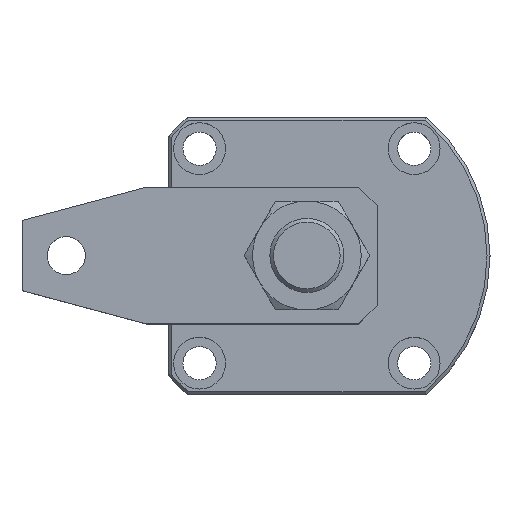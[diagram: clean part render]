
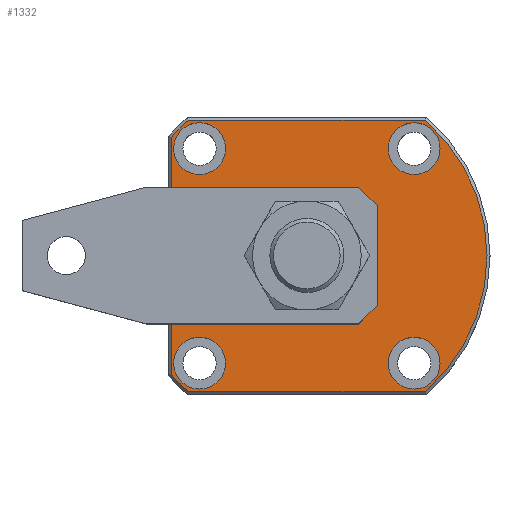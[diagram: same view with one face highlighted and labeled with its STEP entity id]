
A CAD part, top view. The second image highlights one B-rep face of the part: STEP entity #1332.
In plain terms, the highlighted planar face has unit normal (0, 0, 1).
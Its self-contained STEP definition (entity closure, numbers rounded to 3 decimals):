
#103=LINE('',#2425,#151);
#104=LINE('',#2429,#152);
#105=LINE('',#2433,#153);
#151=VECTOR('',#1996,1000.);
#152=VECTOR('',#1999,1000.);
#153=VECTOR('',#2002,1000.);
#199=PLANE('',#1792);
#250=ORIENTED_EDGE('',*,*,#585,.T.);
#251=ORIENTED_EDGE('',*,*,#586,.T.);
#252=ORIENTED_EDGE('',*,*,#587,.T.);
#253=ORIENTED_EDGE('',*,*,#588,.T.);
#254=ORIENTED_EDGE('',*,*,#589,.T.);
#255=ORIENTED_EDGE('',*,*,#590,.T.);
#256=ORIENTED_EDGE('',*,*,#591,.T.);
#257=ORIENTED_EDGE('',*,*,#592,.F.);
#258=ORIENTED_EDGE('',*,*,#593,.F.);
#259=ORIENTED_EDGE('',*,*,#594,.F.);
#260=ORIENTED_EDGE('',*,*,#595,.F.);
#585=EDGE_CURVE('',#753,#753,#879,.T.);
#586=EDGE_CURVE('',#754,#755,#880,.T.);
#587=EDGE_CURVE('',#755,#756,#103,.T.);
#588=EDGE_CURVE('',#756,#757,#881,.T.);
#589=EDGE_CURVE('',#757,#758,#104,.T.);
#590=EDGE_CURVE('',#758,#759,#882,.T.);
#591=EDGE_CURVE('',#759,#754,#105,.T.);
#592=EDGE_CURVE('',#760,#760,#883,.T.);
#593=EDGE_CURVE('',#761,#761,#884,.T.);
#594=EDGE_CURVE('',#762,#762,#885,.T.);
#595=EDGE_CURVE('',#763,#763,#886,.T.);
#753=VERTEX_POINT('',#2421);
#754=VERTEX_POINT('',#2423);
#755=VERTEX_POINT('',#2424);
#756=VERTEX_POINT('',#2426);
#757=VERTEX_POINT('',#2428);
#758=VERTEX_POINT('',#2430);
#759=VERTEX_POINT('',#2432);
#760=VERTEX_POINT('',#2435);
#761=VERTEX_POINT('',#2437);
#762=VERTEX_POINT('',#2439);
#763=VERTEX_POINT('',#2441);
#879=CIRCLE('',#1793,14.);
#880=CIRCLE('',#1794,48.7);
#881=CIRCLE('',#1795,48.7);
#882=CIRCLE('',#1796,48.7);
#883=CIRCLE('',#1797,7.);
#884=CIRCLE('',#1798,7.);
#885=CIRCLE('',#1799,7.);
#886=CIRCLE('',#1800,7.);
#964=EDGE_LOOP('',(#250));
#965=EDGE_LOOP('',(#251,#252,#253,#254,#255,#256));
#966=EDGE_LOOP('',(#257));
#967=EDGE_LOOP('',(#258));
#968=EDGE_LOOP('',(#259));
#969=EDGE_LOOP('',(#260));
#1134=FACE_BOUND('',#964,.T.);
#1135=FACE_BOUND('',#965,.T.);
#1136=FACE_BOUND('',#966,.T.);
#1137=FACE_BOUND('',#967,.T.);
#1138=FACE_BOUND('',#968,.T.);
#1139=FACE_BOUND('',#969,.T.);
#1332=ADVANCED_FACE('',(#1134,#1135,#1136,#1137,#1138,#1139),#199,.T.);
#1792=AXIS2_PLACEMENT_3D('',#2419,#1990,#1991);
#1793=AXIS2_PLACEMENT_3D('',#2420,#1992,#1993);
#1794=AXIS2_PLACEMENT_3D('',#2422,#1994,#1995);
#1795=AXIS2_PLACEMENT_3D('',#2427,#1997,#1998);
#1796=AXIS2_PLACEMENT_3D('',#2431,#2000,#2001);
#1797=AXIS2_PLACEMENT_3D('',#2434,#2003,#2004);
#1798=AXIS2_PLACEMENT_3D('',#2436,#2005,#2006);
#1799=AXIS2_PLACEMENT_3D('',#2438,#2007,#2008);
#1800=AXIS2_PLACEMENT_3D('',#2440,#2009,#2010);
#1990=DIRECTION('',(0.,0.,1.));
#1991=DIRECTION('',(0.,-1.,0.));
#1992=DIRECTION('',(0.,0.,-1.));
#1993=DIRECTION('',(0.,-1.,0.));
#1994=DIRECTION('',(0.,0.,1.));
#1995=DIRECTION('',(0.,-1.,0.));
#1996=DIRECTION('',(-1.,0.,0.));
#1997=DIRECTION('',(0.,0.,1.));
#1998=DIRECTION('',(0.,-1.,0.));
#1999=DIRECTION('',(0.,-1.,0.));
#2000=DIRECTION('',(0.,0.,1.));
#2001=DIRECTION('',(0.,-1.,0.));
#2002=DIRECTION('',(1.,0.,0.));
#2003=DIRECTION('',(0.,0.,1.));
#2004=DIRECTION('',(1.,0.,0.));
#2005=DIRECTION('',(0.,0.,1.));
#2006=DIRECTION('',(1.,0.,0.));
#2007=DIRECTION('',(0.,0.,1.));
#2008=DIRECTION('',(1.,0.,0.));
#2009=DIRECTION('',(0.,0.,1.));
#2010=DIRECTION('',(1.,0.,0.));
#2419=CARTESIAN_POINT('',(13.75,39.5,17.));
#2420=CARTESIAN_POINT('',(13.75,39.5,17.));
#2421=CARTESIAN_POINT('',(13.75,25.5,17.));
#2422=CARTESIAN_POINT('',(13.75,39.5,17.));
#2423=CARTESIAN_POINT('',(45.762,2.8,17.));
#2424=CARTESIAN_POINT('',(45.762,76.2,17.));
#2425=CARTESIAN_POINT('',(13.75,76.2,17.));
#2426=CARTESIAN_POINT('',(-18.262,76.2,17.));
#2427=CARTESIAN_POINT('',(13.75,39.5,17.));
#2428=CARTESIAN_POINT('',(-22.95,71.512,17.));
#2429=CARTESIAN_POINT('',(-22.95,39.5,17.));
#2430=CARTESIAN_POINT('',(-22.95,7.488,17.));
#2431=CARTESIAN_POINT('',(13.75,39.5,17.));
#2432=CARTESIAN_POINT('',(-18.262,2.8,17.));
#2433=CARTESIAN_POINT('',(13.75,2.8,17.));
#2434=CARTESIAN_POINT('',(-15.25,10.5,17.));
#2435=CARTESIAN_POINT('',(-8.25,10.5,17.));
#2436=CARTESIAN_POINT('',(42.75,10.5,17.));
#2437=CARTESIAN_POINT('',(49.75,10.5,17.));
#2438=CARTESIAN_POINT('',(42.75,68.5,17.));
#2439=CARTESIAN_POINT('',(49.75,68.5,17.));
#2440=CARTESIAN_POINT('',(-15.25,68.5,17.));
#2441=CARTESIAN_POINT('',(-8.25,68.5,17.));
